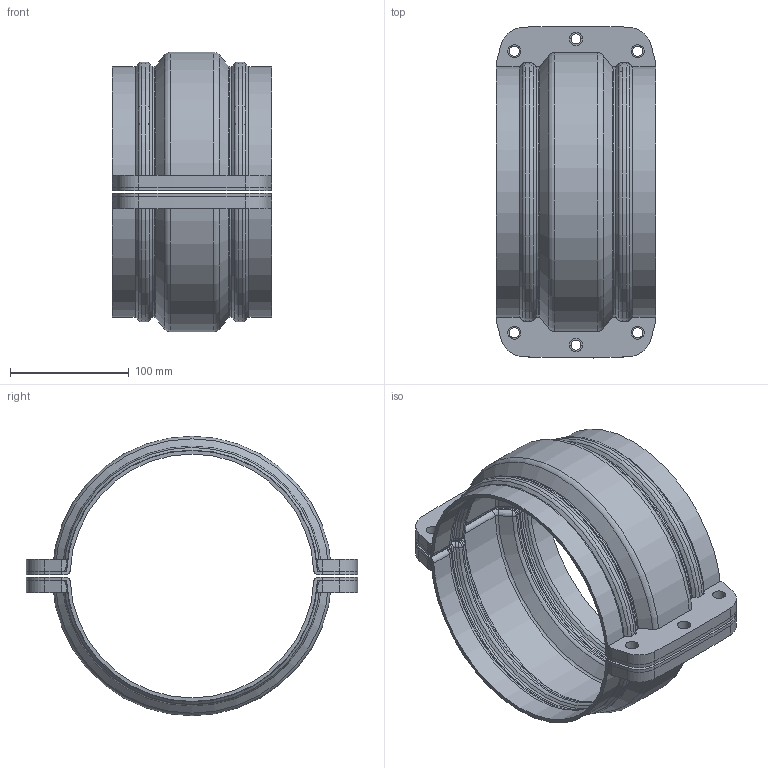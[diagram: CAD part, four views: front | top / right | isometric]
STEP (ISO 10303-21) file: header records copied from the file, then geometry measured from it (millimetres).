
FILE_DESCRIPTION(/* description */ (''),/* implementation_level */ '2;1');
FILE_NAME(/* name */ 'A002_stp.stp',/* time_stamp */ '2025-06-20T11:38:01+08:00',/* author */ (''),/* organization */ (''),/* preprocessor_version */ 'ST-DEVELOPER v14',/* originating_system */ 'SIEMENS PLM Software NX 8.0',/* authorisation */ '');
FILE_SCHEMA (('AP203_CONFIGURATION_CONTROLLED_3D_DESIGN_OF_MECHANICAL_PARTS_AND_ASSEMBLIES_MIM_LF { 1 0 10303 403 2 1 2}'));
Length unit declared in the file: millimetre
Products named in the file (1): Admi0BECFFFE4xt1
Bounding box: 134 x 279.75 x 235.6 mm (x, y, z)
Volume: 473223.2 mm3; surface area: 278715.6 mm2
Topology: 6 solids, 6 shells, 592 faces, 1466 edges, 838 vertices
Faces by surface type: cylinder 180, plane 148, bspline 96, cone 72, torus 48, sphere 48
Full cylindrical faces by diameter (mm): 8.5 x12, 11 x12
Entity records: 17818 total; most frequent: CARTESIAN_POINT 4509, DIRECTION 2782, ORIENTED_EDGE 2760, EDGE_CURVE 1380, AXIS2_PLACEMENT_3D 1097, VERTEX_POINT 824, EDGE_LOOP 664, CIRCLE 600
